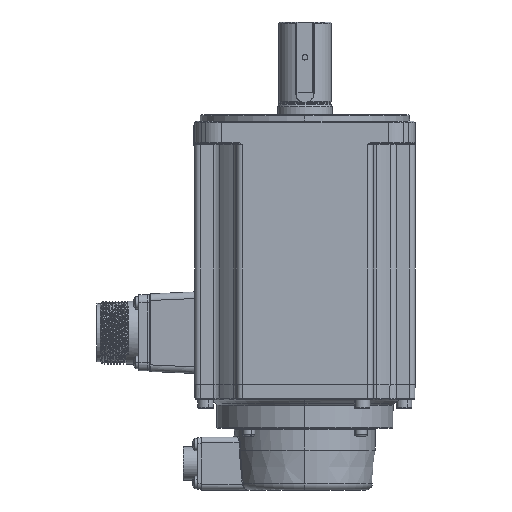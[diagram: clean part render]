
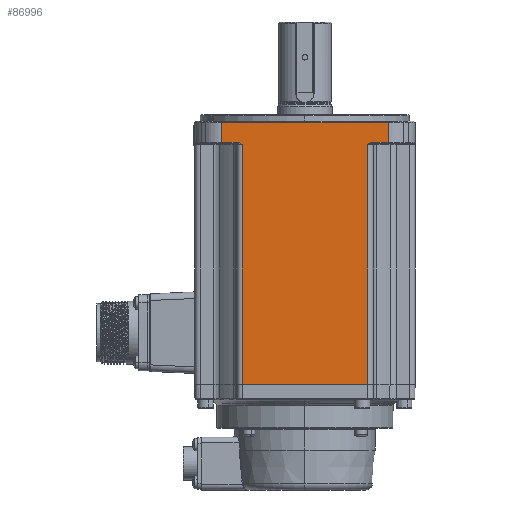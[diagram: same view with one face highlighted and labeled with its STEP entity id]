
A CAD part, left-side view. The second image highlights one B-rep face of the part: STEP entity #86996.
In plain terms, the highlighted planar face has unit normal (-1, 0, 0).
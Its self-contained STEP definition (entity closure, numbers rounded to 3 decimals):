
#207 = CARTESIAN_POINT ( 'NONE',  ( -50., -29.912, -12.743 ) ) ;
#695 = CARTESIAN_POINT ( 'NONE',  ( -50., -30.736, -12.6 ) ) ;
#1575 = DIRECTION ( 'NONE',  ( 0., 1., 0. ) ) ;
#2195 = CARTESIAN_POINT ( 'NONE',  ( -50., -28.839, -13.36 ) ) ;
#5170 = ORIENTED_EDGE ( 'NONE', *, *, #12443, .T. ) ;
#5210 = CARTESIAN_POINT ( 'NONE',  ( -50., -28.5, -168.7 ) ) ;
#5310 = VERTEX_POINT ( 'NONE', #69620 ) ;
#6835 = CARTESIAN_POINT ( 'NONE',  ( -50., 28.5, -168.7 ) ) ;
#8217 = CARTESIAN_POINT ( 'NONE',  ( -50., -37.858, -310.121 ) ) ;
#11052 = VECTOR ( 'NONE', #91807, 1000. ) ;
#11710 = PLANE ( 'NONE',  #97794 ) ;
#12443 = EDGE_CURVE ( 'NONE', #69842, #78278, #83276, .T. ) ;
#12696 = DIRECTION ( 'NONE',  ( -1., 0., 0. ) ) ;
#12801 = CARTESIAN_POINT ( 'NONE',  ( -50., -42., -122.5 ) ) ;
#13795 = CARTESIAN_POINT ( 'NONE',  ( -50., 30.736, -12.6 ) ) ;
#18552 = ORIENTED_EDGE ( 'NONE', *, *, #55656, .T. ) ;
#19504 = EDGE_CURVE ( 'NONE', #30096, #28924, #43781, .T. ) ;
#22101 = EDGE_CURVE ( 'NONE', #78278, #73552, #93967, .T. ) ;
#24133 = ORIENTED_EDGE ( 'NONE', *, *, #19504, .T. ) ;
#27280 = LINE ( 'NONE', #12801, #76184 ) ;
#28924 = VERTEX_POINT ( 'NONE', #36598 ) ;
#29300 = DIRECTION ( 'NONE',  ( 0., 0., 1. ) ) ;
#29730 = CARTESIAN_POINT ( 'NONE',  ( -50., 28.5, -13.6 ) ) ;
#30096 = VERTEX_POINT ( 'NONE', #31959 ) ;
#31959 = CARTESIAN_POINT ( 'NONE',  ( -50., 37.858, -12.6 ) ) ;
#32056 = EDGE_CURVE ( 'NONE', #83597, #30096, #64949, .T. ) ;
#32106 = ORIENTED_EDGE ( 'NONE', *, *, #32056, .T. ) ;
#34853 = CARTESIAN_POINT ( 'NONE',  ( -50., -42., -12.6 ) ) ;
#36598 = CARTESIAN_POINT ( 'NONE',  ( -50., 30.736, -12.6 ) ) ;
#37224 = EDGE_LOOP ( 'NONE', ( #82270, #57364, #62154, #5170, #93879, #70011, #85472, #32106, #24133, #18552 ) ) ;
#38362 = CARTESIAN_POINT ( 'NONE',  ( -50., 37.858, -310.121 ) ) ;
#38805 = CARTESIAN_POINT ( 'NONE',  ( -50., 28.5, -122.5 ) ) ;
#40102 = CARTESIAN_POINT ( 'NONE',  ( -50., -28.5, -13.6 ) ) ;
#42307 = DIRECTION ( 'NONE',  ( 0., -1., 0. ) ) ;
#43741 = CARTESIAN_POINT ( 'NONE',  ( -50., 29.912, -12.743 ) ) ;
#43781 = LINE ( 'NONE', #34853, #95075 ) ;
#48056 = EDGE_CURVE ( 'NONE', #5310, #83597, #77964, .T. ) ;
#48807 = EDGE_CURVE ( 'NONE', #78797, #72176, #27280, .T. ) ;
#49157 = FACE_OUTER_BOUND ( 'NONE', #37224, .T. ) ;
#50310 = CARTESIAN_POINT ( 'NONE',  ( -50., 37.858, -3.5 ) ) ;
#50713 = CARTESIAN_POINT ( 'NONE',  ( -50., 28.839, -13.36 ) ) ;
#54842 = CARTESIAN_POINT ( 'NONE',  ( -50., -28.5, -122.5 ) ) ;
#55604 = VECTOR ( 'NONE', #85030, 1000. ) ;
#55656 = EDGE_CURVE ( 'NONE', #28924, #65049, #68863, .T. ) ;
#57364 = ORIENTED_EDGE ( 'NONE', *, *, #48807, .T. ) ;
#57755 = DIRECTION ( 'NONE',  ( 0., -1., 0. ) ) ;
#61638 = CARTESIAN_POINT ( 'NONE',  ( -50., -37.858, -12.6 ) ) ;
#62018 = CARTESIAN_POINT ( 'NONE',  ( -50., -42., -12.6 ) ) ;
#62154 = ORIENTED_EDGE ( 'NONE', *, *, #91255, .T. ) ;
#64949 = LINE ( 'NONE', #38362, #11052 ) ;
#65049 = VERTEX_POINT ( 'NONE', #91012 ) ;
#66134 = DIRECTION ( 'NONE',  ( 0., 0., 1. ) ) ;
#67779 = LINE ( 'NONE', #6835, #90560 ) ;
#68587 = CARTESIAN_POINT ( 'NONE',  ( -50., -29.178, -13.12 ) ) ;
#68863 = B_SPLINE_CURVE_WITH_KNOTS ( 'NONE', 3,
 ( #13795, #90237, #43741, #98172, #50713, #29730 ),
 .UNSPECIFIED., .F., .F.,
 ( 4, 2, 4 ),
 ( 0., 0.001, 0.002 ),
 .UNSPECIFIED. ) ;
#69074 = CARTESIAN_POINT ( 'NONE',  ( -50., -30.315, -12.6 ) ) ;
#69620 = CARTESIAN_POINT ( 'NONE',  ( -50., -37.858, -3.5 ) ) ;
#69842 = VERTEX_POINT ( 'NONE', #78852 ) ;
#70011 = ORIENTED_EDGE ( 'NONE', *, *, #96786, .T. ) ;
#70144 = DIRECTION ( 'NONE',  ( 0., 0., 1. ) ) ;
#72176 = VERTEX_POINT ( 'NONE', #54842 ) ;
#73552 = VERTEX_POINT ( 'NONE', #61638 ) ;
#73602 = LINE ( 'NONE', #5210, #79609 ) ;
#74692 = VECTOR ( 'NONE', #1575, 1000. ) ;
#76184 = VECTOR ( 'NONE', #57755, 1000. ) ;
#77964 = LINE ( 'NONE', #79451, #74692 ) ;
#78278 = VERTEX_POINT ( 'NONE', #83929 ) ;
#78797 = VERTEX_POINT ( 'NONE', #38805 ) ;
#78852 = CARTESIAN_POINT ( 'NONE',  ( -50., -28.5, -13.6 ) ) ;
#79451 = CARTESIAN_POINT ( 'NONE',  ( -50., 37.858, -3.5 ) ) ;
#79609 = VECTOR ( 'NONE', #66134, 1000. ) ;
#82270 = ORIENTED_EDGE ( 'NONE', *, *, #90550, .F. ) ;
#83119 = DIRECTION ( 'NONE',  ( 0., -1., 0. ) ) ;
#83276 = B_SPLINE_CURVE_WITH_KNOTS ( 'NONE', 3,
 ( #40102, #2195, #68587, #207, #69074, #695 ),
 .UNSPECIFIED., .F., .F.,
 ( 4, 2, 4 ),
 ( 0., 0.001, 0.002 ),
 .UNSPECIFIED. ) ;
#83597 = VERTEX_POINT ( 'NONE', #50310 ) ;
#83929 = CARTESIAN_POINT ( 'NONE',  ( -50., -30.736, -12.6 ) ) ;
#85030 = DIRECTION ( 'NONE',  ( 0., -1., 0. ) ) ;
#85472 = ORIENTED_EDGE ( 'NONE', *, *, #48056, .T. ) ;
#85684 = LINE ( 'NONE', #8217, #88009 ) ;
#86996 = ADVANCED_FACE ( 'NONE', ( #49157 ), #11710, .T. ) ;
#88009 = VECTOR ( 'NONE', #70144, 1000. ) ;
#90237 = CARTESIAN_POINT ( 'NONE',  ( -50., 30.315, -12.6 ) ) ;
#90550 = EDGE_CURVE ( 'NONE', #78797, #65049, #67779, .T. ) ;
#90560 = VECTOR ( 'NONE', #29300, 1000. ) ;
#91012 = CARTESIAN_POINT ( 'NONE',  ( -50., 28.5, -13.6 ) ) ;
#91255 = EDGE_CURVE ( 'NONE', #72176, #69842, #73602, .T. ) ;
#91807 = DIRECTION ( 'NONE',  ( 0., 0., -1. ) ) ;
#93879 = ORIENTED_EDGE ( 'NONE', *, *, #22101, .T. ) ;
#93967 = LINE ( 'NONE', #62018, #55604 ) ;
#95075 = VECTOR ( 'NONE', #42307, 1000. ) ;
#96786 = EDGE_CURVE ( 'NONE', #73552, #5310, #85684, .T. ) ;
#97794 = AXIS2_PLACEMENT_3D ( 'NONE', #98067, #12696, #83119 ) ;
#98067 = CARTESIAN_POINT ( 'NONE',  ( -50., -42., -310.121 ) ) ;
#98172 = CARTESIAN_POINT ( 'NONE',  ( -50., 29.178, -13.12 ) ) ;
